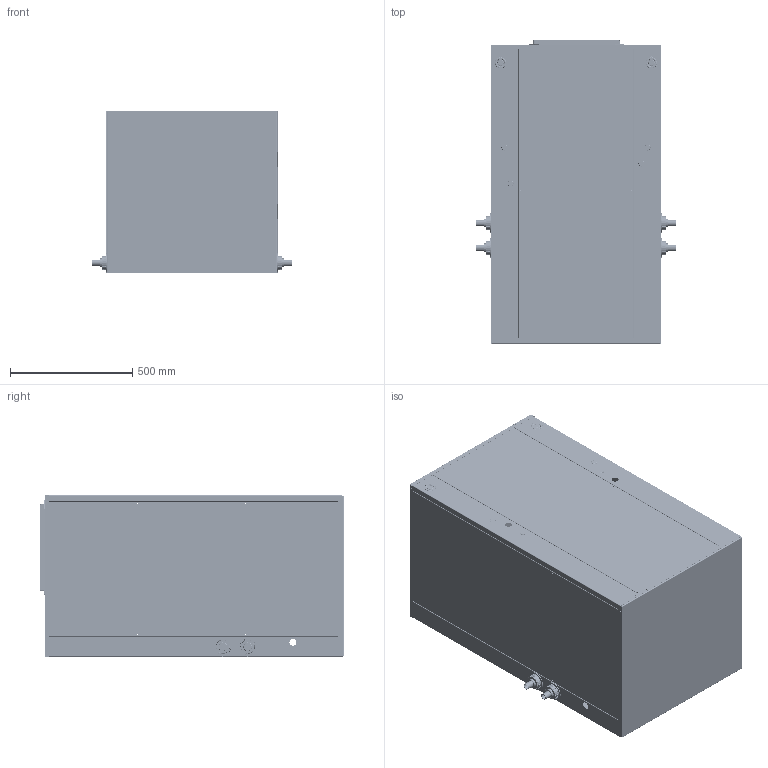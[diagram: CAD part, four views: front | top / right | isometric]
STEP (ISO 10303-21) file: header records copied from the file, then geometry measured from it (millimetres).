
FILE_DESCRIPTION (( 'STEP AP214' ), '1' );
FILE_NAME ('GV27S2.STEP', '2016-07-14T13:05:11', ( 'BMC' ), ( 'Bard Manufacturing Co., Inc.' ), 'SwSTEP 2.0', 'SolidWorks 2016', '' );
FILE_SCHEMA (( 'AUTOMOTIVE_DESIGN' ));
Length unit declared in the file: inch
Products named in the file (30): 8001-017; 122-118; 8001-007; 120-433; 1012-109,; 148-109; 1012-052, bolt; 148-108; Fitting assembly; 108-209; Cap; 140-260; Plug; Retaining Nut; GV27S2; copper adapter; water fitting; plastic trim; 144-177; 140-262; 126-296; 140-263; 104-1035; 152-466; 140-306; 152-463; 152-462; 100-358; 136-565; 106-217
Assembly tree (37 placements, depth 3):
  GV27S2
    140-260  x2
    108-209
    148-108
    148-109
    120-433
    122-118
    106-217
    100-358
    152-463
    152-466
    104-1035
    140-263  x2
    126-296
    140-262  x2
    144-177  x2
    Fitting assembly  x4
      plastic trim
      water fitting
      copper adapter
      Retaining Nut
      Plug
      Cap
    1012-052, bolt
    1012-109,
    8001-007
    8001-017
    136-565
    152-462
    140-306  x2
Bounding box: 817.88 x 1243.81 x 665.16 mm (x, y, z)
Surface area: 10794697.9 mm2 (no closed solid volume)
Topology: 0 solids, 51 shells, 3653 faces, 9222 edges, 5788 vertices
Faces by surface type: cylinder 1361, bspline 1052, plane 966, cone 274
Entity records: 118134 total; most frequent: CARTESIAN_POINT 35835, ORIENTED_EDGE 11486, DIRECTION 10600, EDGE_CURVE 5743, AXIS2_PLACEMENT_3D 4129, VERTEX_POINT 3649, EDGE_LOOP 2732, CIRCLE 2465
